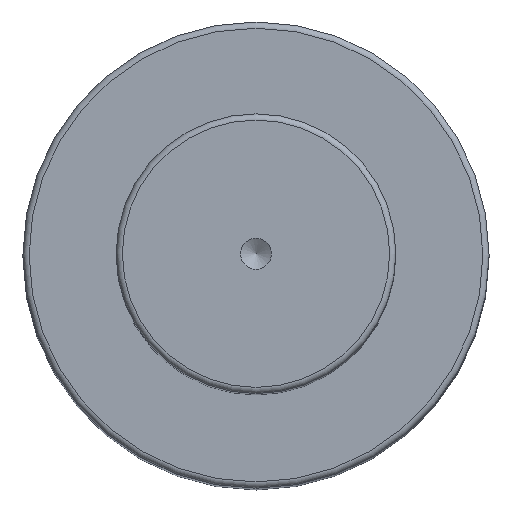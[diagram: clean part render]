
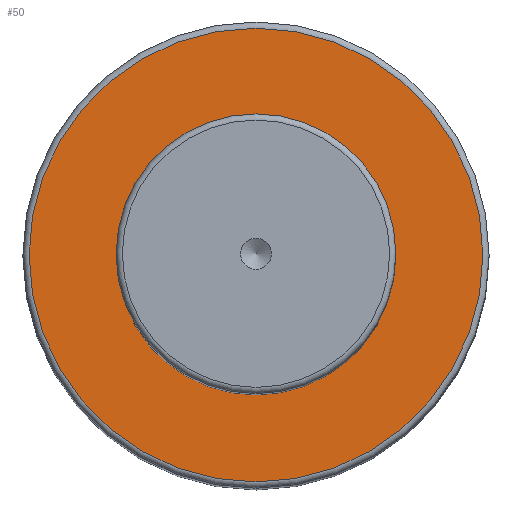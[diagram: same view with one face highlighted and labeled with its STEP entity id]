
A CAD part, top view. The second image highlights one B-rep face of the part: STEP entity #50.
In plain terms, the highlighted planar face has unit normal (0, 0, 1).
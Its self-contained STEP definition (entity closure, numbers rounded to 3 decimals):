
#40=PLANE('',#179);
#50=ADVANCED_FACE('',(#72,#73),#40,.F.);
#72=FACE_BOUND('',#96,.T.);
#73=FACE_BOUND('',#97,.T.);
#96=EDGE_LOOP('',(#118));
#97=EDGE_LOOP('',(#119));
#118=ORIENTED_EDGE('',*,*,#149,.F.);
#119=ORIENTED_EDGE('',*,*,#148,.T.);
#135=VERTEX_POINT('',#256);
#136=VERTEX_POINT('',#259);
#148=EDGE_CURVE('',#135,#135,#159,.T.);
#149=EDGE_CURVE('',#136,#136,#160,.T.);
#159=CIRCLE('',#176,22.5);
#160=CIRCLE('',#178,36.5);
#176=AXIS2_PLACEMENT_3D('',#255,#213,#214);
#178=AXIS2_PLACEMENT_3D('',#258,#217,#218);
#179=AXIS2_PLACEMENT_3D('',#260,#219,#220);
#213=DIRECTION('',(0.,0.,-1.));
#214=DIRECTION('',(-1.,0.,0.));
#217=DIRECTION('',(0.,0.,-1.));
#218=DIRECTION('',(-1.,0.,0.));
#219=DIRECTION('',(0.,0.,-1.));
#220=DIRECTION('',(-1.,0.,0.));
#255=CARTESIAN_POINT('',(0.,0.,169.));
#256=CARTESIAN_POINT('',(-22.5,0.,169.));
#258=CARTESIAN_POINT('',(0.,0.,169.));
#259=CARTESIAN_POINT('',(-36.5,0.,169.));
#260=CARTESIAN_POINT('',(22.5,0.,169.));
